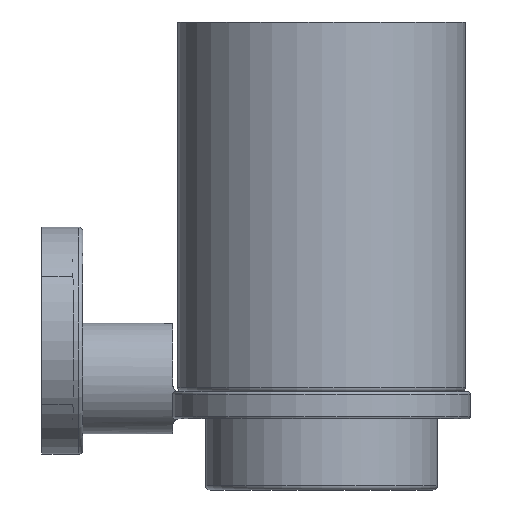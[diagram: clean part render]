
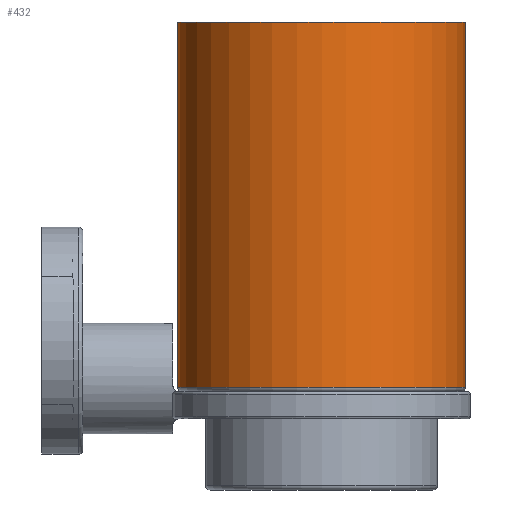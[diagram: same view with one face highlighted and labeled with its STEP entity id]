
A CAD part, left-side view. The second image highlights one B-rep face of the part: STEP entity #432.
In plain terms, the highlighted cylindrical face has radius 32.25 mm (diameter 64.5 mm), a full revolution.
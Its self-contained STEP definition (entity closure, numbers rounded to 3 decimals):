
#155=FACE_BOUND('',#750,.T.);
#156=FACE_BOUND('',#751,.T.);
#222=CYLINDRICAL_SURFACE('',#2280,32.25);
#306=CIRCLE('',#2278,32.25);
#307=CIRCLE('',#2279,32.25);
#432=ADVANCED_FACE('',(#155,#156),#222,.T.);
#750=EDGE_LOOP('',(#1210));
#751=EDGE_LOOP('',(#1211));
#1210=ORIENTED_EDGE('',*,*,#1743,.T.);
#1211=ORIENTED_EDGE('',*,*,#1744,.T.);
#1492=VERTEX_POINT('',#3404);
#1493=VERTEX_POINT('',#3406);
#1743=EDGE_CURVE('',#1492,#1492,#306,.T.);
#1744=EDGE_CURVE('',#1493,#1493,#307,.T.);
#2278=AXIS2_PLACEMENT_3D('',#3403,#2793,#2794);
#2279=AXIS2_PLACEMENT_3D('',#3405,#2795,#2796);
#2280=AXIS2_PLACEMENT_3D('',#3407,#2797,#2798);
#2793=DIRECTION('',(0.,0.,1.));
#2794=DIRECTION('',(-1.,0.,0.));
#2795=DIRECTION('',(0.,0.,-1.));
#2796=DIRECTION('',(-1.,0.,0.));
#2797=DIRECTION('',(0.,0.,-1.));
#2798=DIRECTION('',(-1.,0.,0.));
#3403=CARTESIAN_POINT('',(1089.1,-27.25,189.5));
#3404=CARTESIAN_POINT('',(1056.85,-27.25,189.5));
#3405=CARTESIAN_POINT('',(1089.1,-27.25,271.5));
#3406=CARTESIAN_POINT('',(1056.85,-27.25,271.5));
#3407=CARTESIAN_POINT('',(1089.1,-27.25,271.5));
